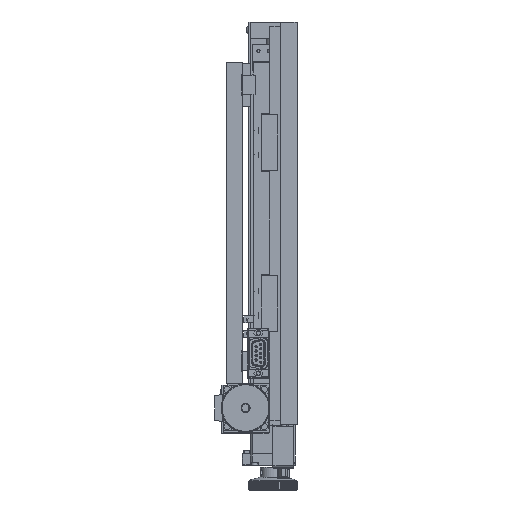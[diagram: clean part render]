
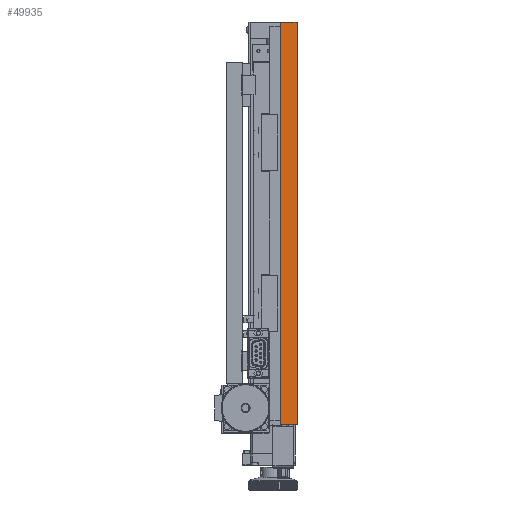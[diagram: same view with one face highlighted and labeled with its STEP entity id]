
A CAD part, left-side view. The second image highlights one B-rep face of the part: STEP entity #49935.
In plain terms, the highlighted planar face has unit normal (-1, 0, 0).
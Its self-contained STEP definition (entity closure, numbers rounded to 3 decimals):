
#592 = CARTESIAN_POINT ( 'NONE',  ( -174.203, -27.717, 125. ) ) ;
#604 = CARTESIAN_POINT ( 'NONE',  ( -174.203, -17.717, 125. ) ) ;
#783 = VERTEX_POINT ( 'NONE', #592 ) ;
#795 = VERTEX_POINT ( 'NONE', #604 ) ;
#909 = VERTEX_POINT ( 'NONE', #18416 ) ;
#994 = VERTEX_POINT ( 'NONE', #18420 ) ;
#7803 = EDGE_CURVE ( 'NONE', #795, #909, #36665, .T. ) ;
#7825 = EDGE_CURVE ( 'NONE', #795, #783, #21031, .T. ) ;
#7840 = EDGE_CURVE ( 'NONE', #909, #994, #21064, .T. ) ;
#7849 = EDGE_CURVE ( 'NONE', #783, #994, #21077, .T. ) ;
#16666 = ORIENTED_EDGE ( 'NONE', *, *, #7803, .T. ) ;
#16667 = ORIENTED_EDGE ( 'NONE', *, *, #7825, .F. ) ;
#16668 = ORIENTED_EDGE ( 'NONE', *, *, #7849, .F. ) ;
#16669 = ORIENTED_EDGE ( 'NONE', *, *, #7840, .T. ) ;
#18416 = CARTESIAN_POINT ( 'NONE',  ( -174.203, -17.717, -125. ) ) ;
#18420 = CARTESIAN_POINT ( 'NONE',  ( -174.203, -27.717, -125. ) ) ;
#20672 = CARTESIAN_POINT ( 'NONE',  ( -174.203, -17.717, 125. ) ) ;
#20678 = DIRECTION ( 'NONE',  ( 0., 0., -1. ) ) ;
#20720 = CARTESIAN_POINT ( 'NONE',  ( -174.203, -27.717, 125. ) ) ;
#20729 = DIRECTION ( 'NONE',  ( 0., -1., 0. ) ) ;
#20754 = CARTESIAN_POINT ( 'NONE',  ( -174.203, -27.717, -125. ) ) ;
#20759 = DIRECTION ( 'NONE',  ( 0., -1., 0. ) ) ;
#20774 = CARTESIAN_POINT ( 'NONE',  ( -174.203, -27.717, 125. ) ) ;
#20784 = DIRECTION ( 'NONE',  ( 0., 0., -1. ) ) ;
#21031 = LINE ( 'NONE', #20720, #21039 ) ;
#21039 = VECTOR ( 'NONE', #20729, 1000. ) ;
#21064 = LINE ( 'NONE', #20754, #21065 ) ;
#21065 = VECTOR ( 'NONE', #20759, 1000. ) ;
#21077 = LINE ( 'NONE', #20774, #21079 ) ;
#21079 = VECTOR ( 'NONE', #20784, 1000. ) ;
#24482 = EDGE_LOOP ( 'NONE', ( #16669, #16668, #16667, #16666 ) ) ;
#36665 = LINE ( 'NONE', #20672, #36670 ) ;
#36670 = VECTOR ( 'NONE', #20678, 1000. ) ;
#42455 = AXIS2_PLACEMENT_3D ( 'NONE', #48415, #48423, #48425 ) ;
#44921 = FACE_OUTER_BOUND ( 'NONE', #24482, .T. ) ;
#48415 = CARTESIAN_POINT ( 'NONE',  ( -174.203, -27.717, 125. ) ) ;
#48418 = PLANE ( 'NONE',  #42455 ) ;
#48423 = DIRECTION ( 'NONE',  ( 1., 0., 0. ) ) ;
#48425 = DIRECTION ( 'NONE',  ( 0., 0., -1. ) ) ;
#49935 = ADVANCED_FACE ( 'NONE', ( #44921 ), #48418, .F. ) ;
